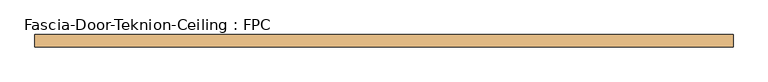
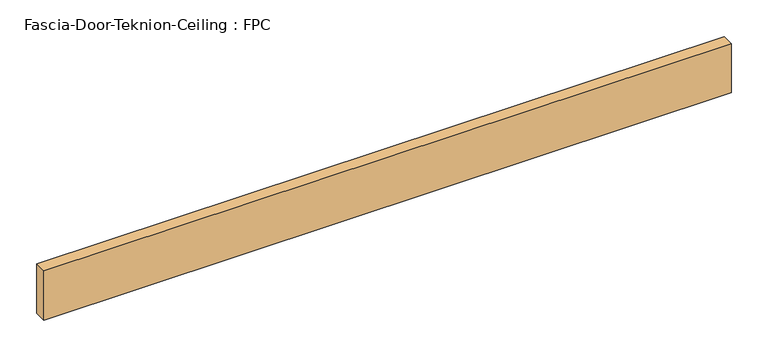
"""IFC4 building model written with IfcOpenShell, lengths in millimetres: door geometry, Fascia-Door-Teknion-Ceiling : FPC."""

import ifcopenshell
import ifcopenshell.guid

model = None  # the IFC model being written
_history = None  # IfcOwnerHistory: only IFC2X3 demands one
_inside = {}  # id of a spatial element -> (the spatial element, [elements in it])
_under = {}  # id of a project, library or spatial element -> (it, [spatial elements below it])
_declared = {}  # id of a project -> (the project, [libraries it declares])
_typed = {}  # id of a type object -> (the type object, [elements of that type])
_made_of = {}  # id of a material, layer set ... -> (it, [elements and type objects made of it])


def new_model(schema):
    """Start an empty IFC model of exactly this schema.

    Asked for "IFC4X3", IfcOpenShell would pick the latest addendum, in which some entities
    have other attributes; the version numbers below select the first issue.
    IFC2X3 requires an IfcOwnerHistory on every rooted entity: one is made here for all.
    """
    global model, _history
    if schema == "IFC4X3":
        model = ifcopenshell.file(schema_version=(4, 3, 0, 0))
    else:
        model = ifcopenshell.file(schema=schema)
    _inside.clear()
    _under.clear()
    _declared.clear()
    _typed.clear()
    _made_of.clear()
    _history = None
    if model.schema == "IFC2X3":
        org = make("IfcOrganization", Name="unknown")
        user = make(
            "IfcPersonAndOrganization",
            ThePerson=make("IfcPerson", FamilyName="unknown"),
            TheOrganization=org,
        )
        app = make(
            "IfcApplication",
            ApplicationDeveloper=org,
            Version="unknown",
            ApplicationFullName="unknown",
            ApplicationIdentifier="unknown",
        )
        _history = make(
            "IfcOwnerHistory",
            OwningUser=user,
            OwningApplication=app,
            ChangeAction="ADDED",
            CreationDate=0,
        )
    return model


def make(cls, **values):
    """One entity of the class cls with the attributes given. An attribute that is None is left unset."""
    return model.create_entity(
        cls, **{name: value for name, value in values.items() if value is not None}
    )


def rooted(cls, **values):
    """An entity with a GlobalId (a new one), such as an element, a storey or a relation."""
    return make(cls, GlobalId=ifcopenshell.guid.new(), OwnerHistory=_history, **values)


def si_unit(unit_type, name, prefix=None):
    """IfcSIUnit, for example si_unit("LENGTHUNIT", "METRE", prefix="MILLI")."""
    return make("IfcSIUnit", UnitType=unit_type, Prefix=prefix, Name=name)


def assignment(units):
    """IfcUnitAssignment: the units of a project."""
    return None if units is None else make("IfcUnitAssignment", Units=units)


def point(xyz):
    """IfcCartesianPoint."""
    return None if xyz is None else make("IfcCartesianPoint", Coordinates=xyz)


def direction(xyz):
    """IfcDirection."""
    return None if xyz is None else make("IfcDirection", DirectionRatios=xyz)


def frame(location, z_axis=None, x_axis=None):
    """IfcAxis2Placement3D, a coordinate frame: its origin and axes. An axis left out is left unset."""
    return make(
        "IfcAxis2Placement3D",
        Location=point(location),
        Axis=direction(z_axis),
        RefDirection=direction(x_axis),
    )


def origin():
    """The frame at (0, 0, 0) with its axes left unset."""
    return frame((0.0, 0.0, 0.0))


def origin_with_axes():
    """The frame at (0, 0, 0) with the z axis (0, 0, 1) and the x axis (1, 0, 0) written out."""
    return frame((0.0, 0.0, 0.0), z_axis=(0.0, 0.0, 1.0), x_axis=(1.0, 0.0, 0.0))


def place(relative_to, where):
    """IfcLocalPlacement: puts the frame where relative to a parent placement (None: the world)."""
    return make(
        "IfcLocalPlacement", PlacementRelTo=relative_to, RelativePlacement=where
    )


def context(
    kind, dimensions, precision=None, world=None, true_north=None, identifier=None
):
    """IfcGeometricRepresentationContext, for example the 3D "Model" context."""
    return make(
        "IfcGeometricRepresentationContext",
        ContextIdentifier=identifier,
        ContextType=kind,
        CoordinateSpaceDimension=dimensions,
        Precision=precision,
        WorldCoordinateSystem=world,
        TrueNorth=true_north,
    )


def project(units=None, contexts=None):
    """IfcProject with its units and contexts."""
    return rooted(
        "IfcProject",
        Name="project",
        RepresentationContexts=contexts,
        UnitsInContext=assignment(units),
    )


def spatial(cls, under=None, at=None, **own):
    """A site, building, storey or space (cls), placed at a placement, below another one or the project."""
    s = rooted(cls, ObjectPlacement=at, **own)
    if under is not None:
        _under.setdefault(under.id(), (under, []))[1].append(s)
    return s


def polyline(points):
    """IfcPolyline through the points."""
    return make("IfcPolyline", Points=[point(p) for p in points])


def outline(outer, holes=None, kind="AREA"):
    """IfcArbitraryClosedProfileDef: a profile drawn as a closed curve; with holes, ...WithVoids."""
    if holes is None:
        return make("IfcArbitraryClosedProfileDef", ProfileType=kind, OuterCurve=outer)
    return make(
        "IfcArbitraryProfileDefWithVoids",
        ProfileType=kind,
        OuterCurve=outer,
        InnerCurves=holes,
    )


def extrude(swept, where, along, depth):
    """IfcExtrudedAreaSolid: the profile swept, set in the frame where, extruded along a direction by depth."""
    return make(
        "IfcExtrudedAreaSolid",
        SweptArea=swept,
        Position=where,
        ExtrudedDirection=direction(along),
        Depth=depth,
    )


def shape(context_of_items, identifier, shape_type, items):
    """IfcShapeRepresentation: the items that make up one representation, for example the "Body"."""
    return make(
        "IfcShapeRepresentation",
        ContextOfItems=context_of_items,
        RepresentationIdentifier=identifier,
        RepresentationType=shape_type,
        Items=items,
    )


def source(mapping_origin, context_of_items, identifier, shape_type, items):
    """IfcRepresentationMap: a shape defined once, which mapped items show again and again."""
    return make(
        "IfcRepresentationMap",
        MappingOrigin=mapping_origin,
        MappedRepresentation=shape(context_of_items, identifier, shape_type, items),
    )


def transform(
    local_origin,
    x_axis=None,
    y_axis=None,
    z_axis=None,
    scale=None,
    scale2=None,
    scale3=None,
    uniform=True,
):
    """IfcCartesianTransformationOperator3D, or its non-uniform kind. x_axis, y_axis, z_axis: its Axis1, 2, 3."""
    if uniform:
        return make(
            "IfcCartesianTransformationOperator3D",
            Axis1=direction(x_axis),
            Axis2=direction(y_axis),
            LocalOrigin=point(local_origin),
            Scale=scale,
            Axis3=direction(z_axis),
        )
    return make(
        "IfcCartesianTransformationOperator3DnonUniform",
        Axis1=direction(x_axis),
        Axis2=direction(y_axis),
        LocalOrigin=point(local_origin),
        Scale=scale,
        Axis3=direction(z_axis),
        Scale2=scale2,
        Scale3=scale3,
    )


def mapped(mapping_source, mapping_target):
    """IfcMappedItem: shows the shape of a source again, moved by a transform."""
    return make(
        "IfcMappedItem", MappingSource=mapping_source, MappingTarget=mapping_target
    )


def made_of(thing, what):
    """Note that an element or type object is made of a material, layer set ...; save() writes the relation."""
    if what is not None:
        _made_of.setdefault(what.id(), (what, []))[1].append(thing)
    return thing


def element(
    cls,
    number,
    at=None,
    inside=None,
    cuts=None,
    type_object=None,
    material=None,
    context=None,
    identifier="Body",
    shape_type=None,
    held_by="IfcProductDefinitionShape",
    body=None,
    shapes=None,
    **own,
):
    """One element of the class cls, such as IfcWall. Its Tag is "e" and its number.

    at: its placement. inside: the storey or other place that contains it. cuts: it is an
    opening in that element (IfcRelVoidsElement). A single representation is given by context,
    identifier, shape_type and body (its items); several are given by shapes. held_by: the class
    of the entity that holds the representations. save() writes the other relations.
    """
    e = rooted(cls, Tag="e%d" % number, ObjectPlacement=at, **own)
    if body is not None:
        shapes = [shape(context, identifier, shape_type, body)]
    if shapes is not None:
        e.Representation = make(held_by, Representations=shapes)
    if inside is not None:
        _inside.setdefault(inside.id(), (inside, []))[1].append(e)
    if cuts is not None:
        rooted(
            "IfcRelVoidsElement", RelatingBuildingElement=cuts, RelatedOpeningElement=e
        )
    if type_object is not None:
        _typed.setdefault(type_object.id(), (type_object, []))[1].append(e)
    return made_of(e, material)


def aggregate(whole, parts):
    """IfcRelAggregates: a whole, such as a stair, and the parts it consists of."""
    return rooted("IfcRelAggregates", RelatingObject=whole, RelatedObjects=parts)


def save(model, path):
    """Write the relations noted so far, then the file.

    IfcRelAggregates (storeys below a building ...), IfcRelContainedInSpatialStructure (elements
    in a storey), IfcRelDefinesByType, IfcRelAssociatesMaterial and IfcRelDeclares: one each for
    every whole, place, type object, material and project.
    """
    for whole, parts in _under.values():
        aggregate(whole, parts)
    for where, things in _inside.values():
        rooted(
            "IfcRelContainedInSpatialStructure",
            RelatedElements=things,
            RelatingStructure=where,
        )
    for kind, things in _typed.values():
        rooted("IfcRelDefinesByType", RelatedObjects=things, RelatingType=kind)
    for what, things in _made_of.values():
        rooted("IfcRelAssociatesMaterial", RelatedObjects=things, RelatingMaterial=what)
    for by, libraries in _declared.values():
        rooted("IfcRelDeclares", RelatingContext=by, RelatedDefinitions=libraries)
    model.write(path)


def fascia_door_teknion_ceiling_fpc_5290212c(model_context):
    return source(origin(), model_context, "Body", "SweptSolid", [
        extrude(outline(polyline([(537.8152344, 0.0), (537.8152344, -19.05), (-537.8152344, -19.05), (-537.8152344, 0.0), (537.8152344, 0.0)])), origin_with_axes(), (0.0, 0.0, 1.0), 81.28),
    ])


if __name__ == "__main__":
    model = new_model("IFC4")
    model_context = context("Model", 3, world=origin())
    ifc_project = project(units=[si_unit("LENGTHUNIT", "METRE", prefix="MILLI")], contexts=[model_context])
    site = spatial("IfcSite", under=ifc_project)
    building = spatial("IfcBuilding", under=site)
    placement = place(None, origin())
    fascia_door_teknion_ceiling_fpc_shape = fascia_door_teknion_ceiling_fpc_5290212c(model_context)
    element("IfcDoor", 1, ObjectType="Fascia-Door-Teknion-Ceiling : FPC", at=placement, inside=building, context=model_context, shape_type="MappedRepresentation", body=[
        mapped(fascia_door_teknion_ceiling_fpc_shape, transform((0.0, 0.0, 0.0), x_axis=(1.0, 0.0, 0.0), y_axis=(0.0, 1.0, 0.0), z_axis=(0.0, 0.0, 1.0))),
    ])
    save(model, "model.ifc")
